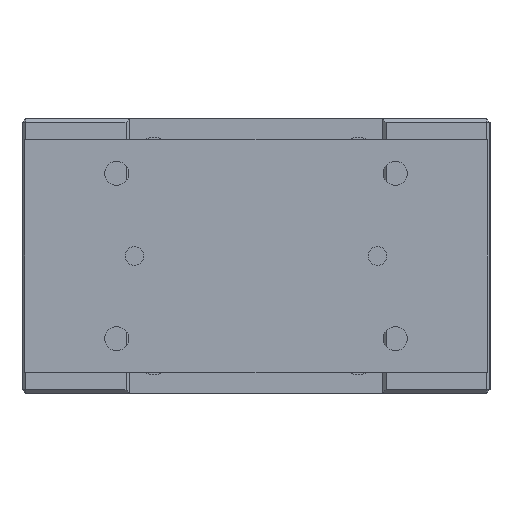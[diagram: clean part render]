
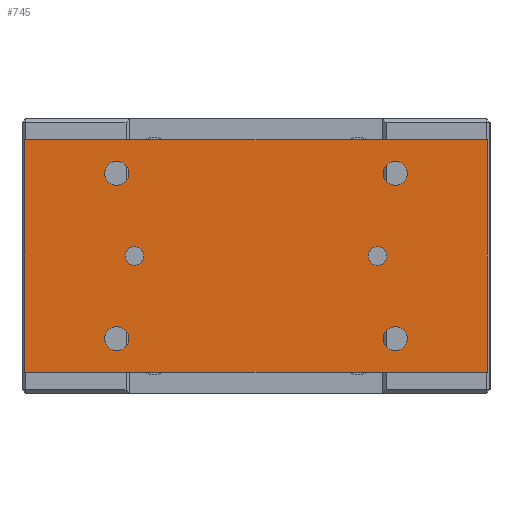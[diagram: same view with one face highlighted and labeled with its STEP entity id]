
A CAD part, left-side view. The second image highlights one B-rep face of the part: STEP entity #745.
In plain terms, the highlighted planar face has unit normal (-1, 0, 0).
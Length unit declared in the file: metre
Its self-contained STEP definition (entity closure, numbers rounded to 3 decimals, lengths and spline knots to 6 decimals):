
#745 = ADVANCED_FACE( '', ( #1631, #1632, #1633, #1634, #1635, #1636, #1637 ), #1638, .T. );
#1631 = FACE_BOUND( '', #2521, .T. );
#1632 = FACE_BOUND( '', #2522, .T. );
#1633 = FACE_BOUND( '', #2523, .T. );
#1634 = FACE_BOUND( '', #2524, .T. );
#1635 = FACE_BOUND( '', #2525, .T. );
#1636 = FACE_BOUND( '', #2526, .T. );
#1637 = FACE_OUTER_BOUND( '', #2527, .T. );
#1638 = PLANE( '', #2528 );
#2521 = EDGE_LOOP( '', ( #4264 ) );
#2522 = EDGE_LOOP( '', ( #4265 ) );
#2523 = EDGE_LOOP( '', ( #4266 ) );
#2524 = EDGE_LOOP( '', ( #4267 ) );
#2525 = EDGE_LOOP( '', ( #4268 ) );
#2526 = EDGE_LOOP( '', ( #4269 ) );
#2527 = EDGE_LOOP( '', ( #4270, #4271, #4272, #4273 ) );
#2528 = AXIS2_PLACEMENT_3D( '', #4274, #4275, #4276 );
#4264 = ORIENTED_EDGE( '', *, *, #4898, .F. );
#4265 = ORIENTED_EDGE( '', *, *, #4783, .T. );
#4266 = ORIENTED_EDGE( '', *, *, #4651, .F. );
#4267 = ORIENTED_EDGE( '', *, *, #4786, .F. );
#4268 = ORIENTED_EDGE( '', *, *, #4706, .F. );
#4269 = ORIENTED_EDGE( '', *, *, #4571, .F. );
#4270 = ORIENTED_EDGE( '', *, *, #4887, .T. );
#4271 = ORIENTED_EDGE( '', *, *, #4326, .T. );
#4272 = ORIENTED_EDGE( '', *, *, #4293, .T. );
#4273 = ORIENTED_EDGE( '', *, *, #4891, .T. );
#4274 = CARTESIAN_POINT( '', ( -0.143, -0.1245, -0.0115 ) );
#4275 = DIRECTION( '', ( -1., 0., 0. ) );
#4276 = DIRECTION( '', ( 0., 0., 1. ) );
#4293 = EDGE_CURVE( '', #4942, #4940, #4943, .T. );
#4326 = EDGE_CURVE( '', #4998, #4942, #4999, .T. );
#4571 = EDGE_CURVE( '', #5386, #5386, #5387, .T. );
#4651 = EDGE_CURVE( '', #5505, #5505, #5506, .T. );
#4706 = EDGE_CURVE( '', #5580, #5580, #5581, .T. );
#4783 = EDGE_CURVE( '', #5682, #5682, #5683, .T. );
#4786 = EDGE_CURVE( '', #5687, #5687, #5688, .T. );
#4887 = EDGE_CURVE( '', #5811, #4998, #5812, .T. );
#4891 = EDGE_CURVE( '', #4940, #5811, #5816, .T. );
#4898 = EDGE_CURVE( '', #5823, #5823, #5824, .T. );
#4940 = VERTEX_POINT( '', #5875 );
#4942 = VERTEX_POINT( '', #5878 );
#4943 = LINE( '', #5879, #5880 );
#4998 = VERTEX_POINT( '', #5955 );
#4999 = LINE( '', #5956, #5957 );
#5386 = VERTEX_POINT( '', #6528 );
#5387 = CIRCLE( '', #6529, 0.0065 );
#5505 = VERTEX_POINT( '', #6711 );
#5506 = CIRCLE( '', #6712, 0.0065 );
#5580 = VERTEX_POINT( '', #6865 );
#5581 = CIRCLE( '', #6866, 0.0065 );
#5682 = VERTEX_POINT( '', #7026 );
#5683 = CIRCLE( '', #7027, 0.005 );
#5687 = VERTEX_POINT( '', #7031 );
#5688 = CIRCLE( '', #7032, 0.0065 );
#5811 = VERTEX_POINT( '', #7248 );
#5812 = LINE( '', #7249, #7250 );
#5816 = LINE( '', #7255, #7256 );
#5823 = VERTEX_POINT( '', #7263 );
#5824 = CIRCLE( '', #7264, 0.005 );
#5875 = CARTESIAN_POINT( '', ( -0.143, 0.1245, -0.1365 ) );
#5878 = CARTESIAN_POINT( '', ( -0.143, 0.1245, -0.0115 ) );
#5879 = CARTESIAN_POINT( '', ( -0.143, 0.1245, -0.0115 ) );
#5880 = VECTOR( '', #7297, 1. );
#5955 = CARTESIAN_POINT( '', ( -0.143, -0.1245, -0.0115 ) );
#5956 = CARTESIAN_POINT( '', ( -0.143, -0.1245, -0.0115 ) );
#5957 = VECTOR( '', #7330, 1. );
#6528 = CARTESIAN_POINT( '', ( -0.143, 0.075, -0.023 ) );
#6529 = AXIS2_PLACEMENT_3D( '', #7623, #7624, #7625 );
#6711 = CARTESIAN_POINT( '', ( -0.143, -0.075, -0.112 ) );
#6712 = AXIS2_PLACEMENT_3D( '', #7711, #7712, #7713 );
#6865 = CARTESIAN_POINT( '', ( -0.143, -0.075, -0.023 ) );
#6866 = AXIS2_PLACEMENT_3D( '', #7772, #7773, #7774 );
#7026 = CARTESIAN_POINT( '', ( -0.143, 0.0705, -0.074 ) );
#7027 = AXIS2_PLACEMENT_3D( '', #7849, #7850, #7851 );
#7031 = CARTESIAN_POINT( '', ( -0.143, 0.075, -0.112 ) );
#7032 = AXIS2_PLACEMENT_3D( '', #7855, #7856, #7857 );
#7248 = CARTESIAN_POINT( '', ( -0.143, -0.1245, -0.1365 ) );
#7249 = CARTESIAN_POINT( '', ( -0.143, -0.1245, -0.1365 ) );
#7250 = VECTOR( '', #7921, 1. );
#7255 = CARTESIAN_POINT( '', ( -0.143, 0.1245, -0.1365 ) );
#7256 = VECTOR( '', #7923, 1. );
#7263 = CARTESIAN_POINT( '', ( -0.143, -0.0705, -0.074 ) );
#7264 = AXIS2_PLACEMENT_3D( '', #7924, #7925, #7926 );
#7297 = DIRECTION( '', ( 0., 0., -1. ) );
#7330 = DIRECTION( '', ( 0., 1., 0. ) );
#7623 = CARTESIAN_POINT( '', ( -0.143, 0.075, -0.0295 ) );
#7624 = DIRECTION( '', ( -1., 0., 0. ) );
#7625 = DIRECTION( '', ( 0., 0., 1. ) );
#7711 = CARTESIAN_POINT( '', ( -0.143, -0.075, -0.1185 ) );
#7712 = DIRECTION( '', ( -1., 0., 0. ) );
#7713 = DIRECTION( '', ( 0., 0., 1. ) );
#7772 = CARTESIAN_POINT( '', ( -0.143, -0.075, -0.0295 ) );
#7773 = DIRECTION( '', ( -1., 0., 0. ) );
#7774 = DIRECTION( '', ( 0., 0., 1. ) );
#7849 = CARTESIAN_POINT( '', ( -0.143, 0.0655, -0.074 ) );
#7850 = DIRECTION( '', ( 1., 0., 0. ) );
#7851 = DIRECTION( '', ( 0., 1., 0. ) );
#7855 = CARTESIAN_POINT( '', ( -0.143, 0.075, -0.1185 ) );
#7856 = DIRECTION( '', ( -1., 0., 0. ) );
#7857 = DIRECTION( '', ( 0., 0., 1. ) );
#7921 = DIRECTION( '', ( 0., 0., 1. ) );
#7923 = DIRECTION( '', ( 0., -1., 0. ) );
#7924 = CARTESIAN_POINT( '', ( -0.143, -0.0655, -0.074 ) );
#7925 = DIRECTION( '', ( -1., 0., 0. ) );
#7926 = DIRECTION( '', ( 0., -1., 0. ) );
